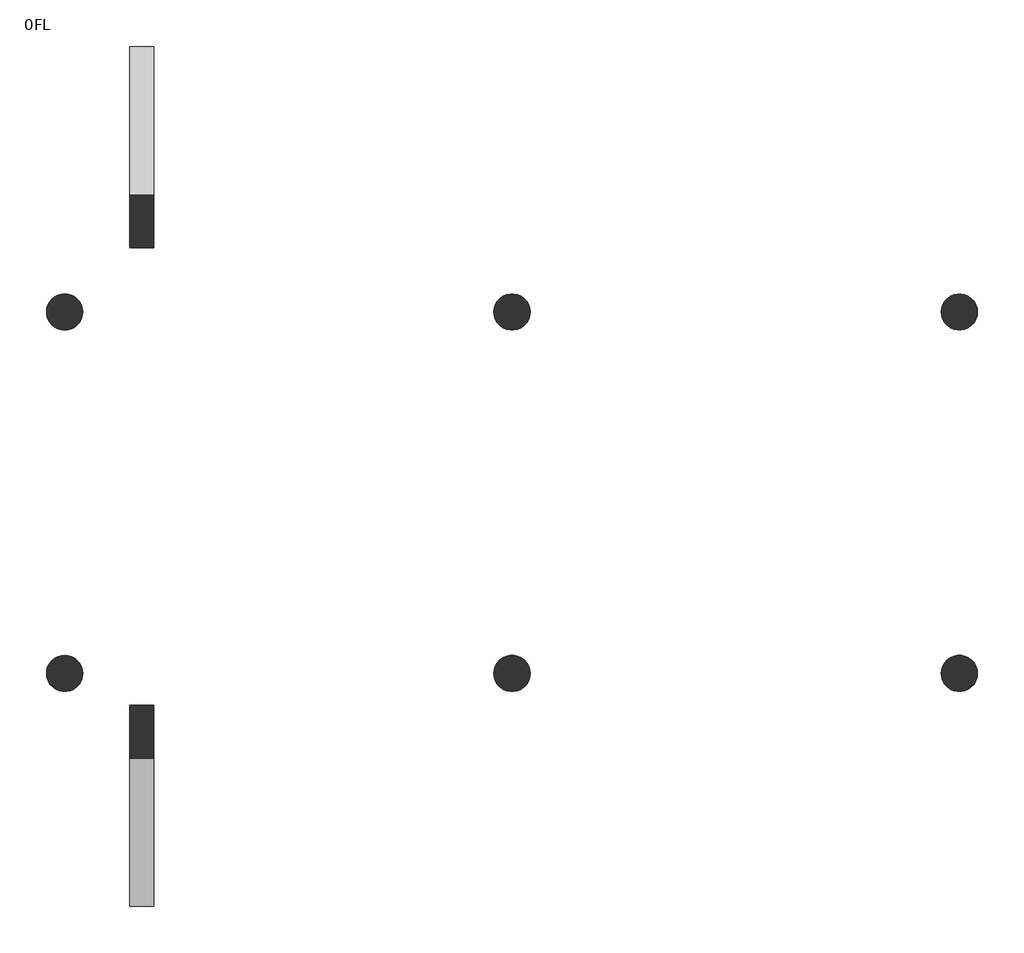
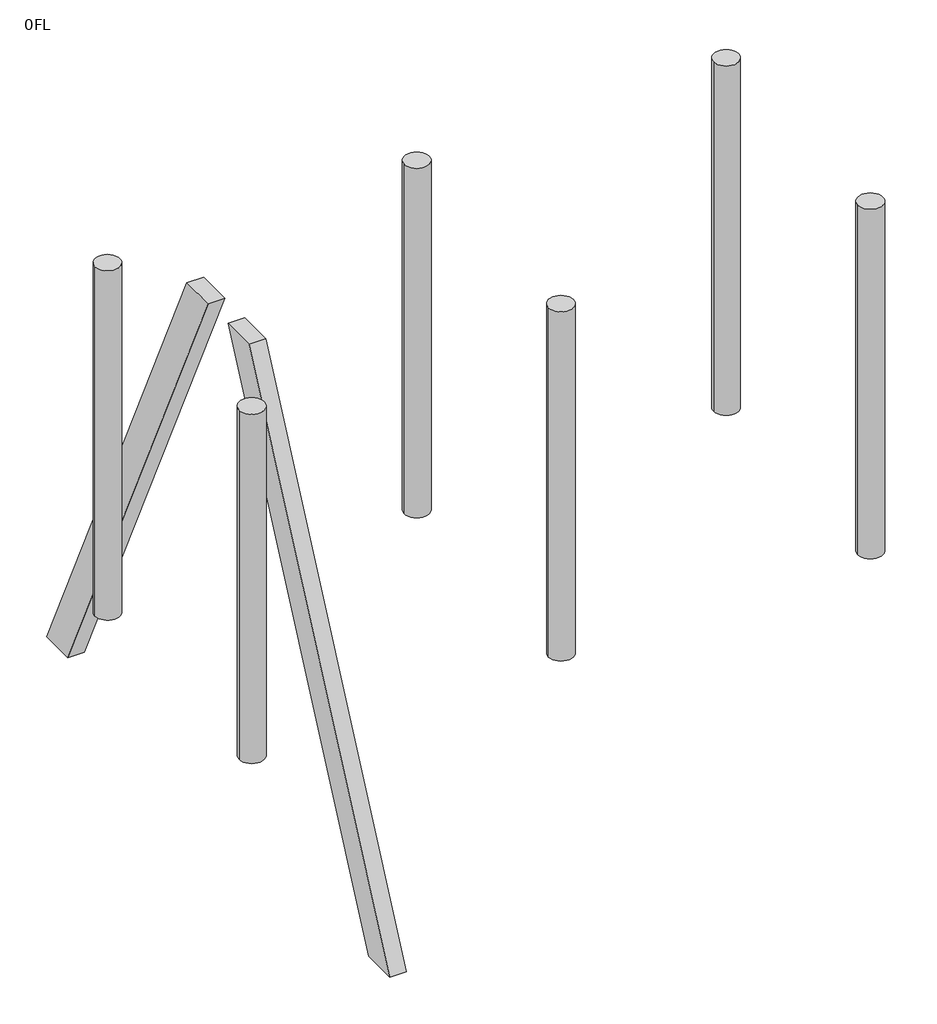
# One storey: 7 columns.
"""IFC4 building model written with IfcOpenShell, lengths in millimetres."""

from ifc_helpers import new_model, si_unit, point, frame_2d, origin, origin_with_axes, place, context, project, spatial, circle_curve, trimmed, segment, composite_curve, outline, extrude, transform, mapped, element, save
from components import column_7ae49d58

model = new_model("IFC4")

# Units and contexts
model_context = context("Model", 3, world=origin())
ifc_project = project(units=[si_unit("LENGTHUNIT", "METRE", prefix="MILLI")], contexts=[model_context])

# Site, building, storey
site = spatial("IfcSite", under=ifc_project)
building = spatial("IfcBuilding", under=site)
storey = spatial("IfcBuildingStorey", under=building, Name="0FL", Elevation=0.0)

# Columns
placement = place(None, origin())
column_shape = column_7ae49d58(model_context)
element("IfcColumn", 1, ObjectType="結構柱 1 : 結構柱 1", at=placement, inside=storey, context=model_context, shape_type="MappedRepresentation", body=[
    mapped(column_shape, transform((0.0, 0.0, 0.0), x_axis=(1.0, 0.0, 0.0), y_axis=(0.0, 1.0, 0.0), z_axis=(0.0, 0.0, 1.0))),
])
element("IfcColumn", 2, ObjectType="混凝土柱-圓形 : 45cm", at=placement, inside=storey, context=model_context, shape_type="SweptSolid", body=[
    extrude(outline(composite_curve([segment(trimmed(circle_curve(frame_2d((-8207.6682319, -1312.8625998)), 225.0), [point((-8432.6682319, -1312.8625998))], [point((-7982.6682319, -1312.8625998))], False, "CARTESIAN"), True, "CONTINUOUS"), segment(trimmed(circle_curve(frame_2d((-8207.6682319, -1312.8625998)), 225.0), [point((-7982.6682319, -1312.8625998))], [point((-8432.6682319, -1312.8625998))], False, "CARTESIAN"), True, "CONTINUOUS")], self_intersect=False)), origin_with_axes(), (0.0, 0.0, 1.0), 6650.0),
])
element("IfcColumn", 3, ObjectType="混凝土柱-圓形 : 45cm", at=placement, inside=storey, context=model_context, shape_type="SweptSolid", body=[
    extrude(outline(composite_curve([segment(trimmed(circle_curve(frame_2d((-2637.6682319, -1312.8625998)), 225.0), [point((-2862.6682319, -1312.8625998))], [point((-2412.6682319, -1312.8625998))], False, "CARTESIAN"), True, "CONTINUOUS"), segment(trimmed(circle_curve(frame_2d((-2637.6682319, -1312.8625998)), 225.0), [point((-2412.6682319, -1312.8625998))], [point((-2862.6682319, -1312.8625998))], False, "CARTESIAN"), True, "CONTINUOUS")], self_intersect=False)), origin_with_axes(), (0.0, 0.0, 1.0), 6650.0),
])
element("IfcColumn", 4, ObjectType="混凝土柱-圓形 : 45cm", at=placement, inside=storey, context=model_context, shape_type="SweptSolid", body=[
    extrude(outline(composite_curve([segment(trimmed(circle_curve(frame_2d((2932.3317681, -1312.8625998)), 225.0), [point((2707.3317681, -1312.8625998))], [point((3157.3317681, -1312.8625998))], False, "CARTESIAN"), True, "CONTINUOUS"), segment(trimmed(circle_curve(frame_2d((2932.3317681, -1312.8625998)), 225.0), [point((3157.3317681, -1312.8625998))], [point((2707.3317681, -1312.8625998))], False, "CARTESIAN"), True, "CONTINUOUS")], self_intersect=False)), origin_with_axes(), (0.0, 0.0, 1.0), 6650.0),
])
element("IfcColumn", 5, ObjectType="混凝土柱-圓形 : 45cm", at=placement, inside=storey, context=model_context, shape_type="SweptSolid", body=[
    extrude(outline(composite_curve([segment(trimmed(circle_curve(frame_2d((-8207.6682319, -5812.8625998)), 225.0), [point((-8432.6682319, -5812.8625998))], [point((-7982.6682319, -5812.8625998))], False, "CARTESIAN"), True, "CONTINUOUS"), segment(trimmed(circle_curve(frame_2d((-8207.6682319, -5812.8625998)), 225.0), [point((-7982.6682319, -5812.8625998))], [point((-8432.6682319, -5812.8625998))], False, "CARTESIAN"), True, "CONTINUOUS")], self_intersect=False)), origin_with_axes(), (0.0, 0.0, 1.0), 6650.0),
])
element("IfcColumn", 6, ObjectType="混凝土柱-圓形 : 45cm", at=placement, inside=storey, context=model_context, shape_type="SweptSolid", body=[
    extrude(outline(composite_curve([segment(trimmed(circle_curve(frame_2d((-2637.6682319, -5812.8625998)), 225.0), [point((-2862.6682319, -5812.8625998))], [point((-2412.6682319, -5812.8625998))], False, "CARTESIAN"), True, "CONTINUOUS"), segment(trimmed(circle_curve(frame_2d((-2637.6682319, -5812.8625998)), 225.0), [point((-2412.6682319, -5812.8625998))], [point((-2862.6682319, -5812.8625998))], False, "CARTESIAN"), True, "CONTINUOUS")], self_intersect=False)), origin_with_axes(), (0.0, 0.0, 1.0), 6650.0),
])
element("IfcColumn", 7, ObjectType="混凝土柱-圓形 : 45cm", at=placement, inside=storey, context=model_context, shape_type="SweptSolid", body=[
    extrude(outline(composite_curve([segment(trimmed(circle_curve(frame_2d((2932.3317681, -5812.8625998)), 225.0), [point((2707.3317681, -5812.8625998))], [point((3157.3317681, -5812.8625998))], False, "CARTESIAN"), True, "CONTINUOUS"), segment(trimmed(circle_curve(frame_2d((2932.3317681, -5812.8625998)), 225.0), [point((3157.3317681, -5812.8625998))], [point((2707.3317681, -5812.8625998))], False, "CARTESIAN"), True, "CONTINUOUS")], self_intersect=False)), origin_with_axes(), (0.0, 0.0, 1.0), 6650.0),
])

save(model, "model.ifc")
